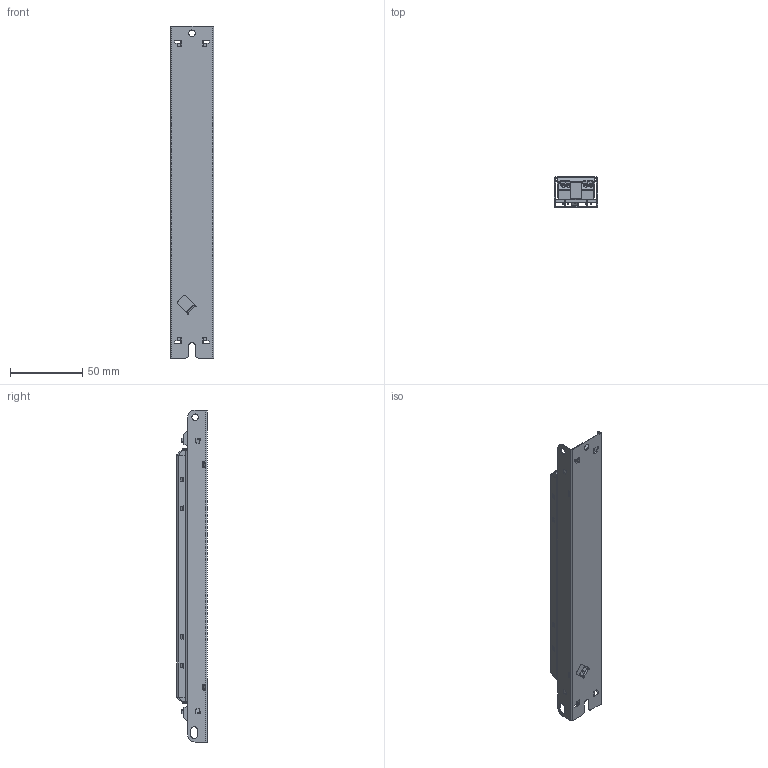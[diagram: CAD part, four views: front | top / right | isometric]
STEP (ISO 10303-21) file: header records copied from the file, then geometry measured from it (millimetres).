
FILE_DESCRIPTION (( 'STEP AP203' ), '1' );
FILE_NAME ('LL1x10-42-CC-350-700.STEP', '2017-12-05T08:09:12', ( '' ), ( '' ), 'SwSTEP 2.0', 'SolidWorks 2014', '' );
FILE_SCHEMA (( 'CONFIG_CONTROL_DESIGN' ));
Products named in the file (1): LL1x10-42-CC-350-700
Bounding box: 30 x 20.88 x 230 mm (x, y, z)
Volume: 23834.6 mm3; surface area: 59891.5 mm2
Topology: 6 solids, 6 shells, 1100 faces, 2894 edges, 1825 vertices
Faces by surface type: plane 586, cylinder 367, bspline 132, cone 15
Entity records: 44419 total; most frequent: CARTESIAN_POINT 18304, ORIENTED_EDGE 5788, DIRECTION 4853, EDGE_CURVE 2894, VECTOR 1897, LINE 1897, VERTEX_POINT 1825, AXIS2_PLACEMENT_3D 1478
